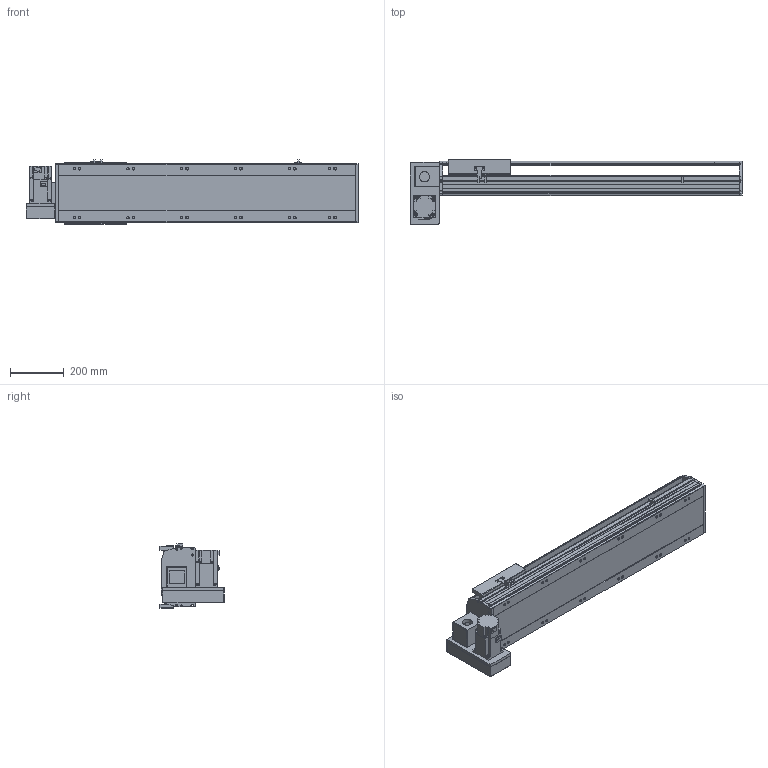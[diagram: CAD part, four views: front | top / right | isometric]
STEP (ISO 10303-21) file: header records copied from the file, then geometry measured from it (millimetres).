
FILE_DESCRIPTION(/* description */ ('STEP AP214'),/* implementation_level */ '2;1');
FILE_NAME(/* name */ 'PBS220-P40-S750-LD-T75-C1-N(0)',/* time_stamp */ '2022-06-27T09:43:18+02:00',/* author */ ('License CC BY-ND 4.0'),/* organization */ ('CADENAS'),/* preprocessor_version */ 'ST-DEVELOPER v18.102',/* originating_system */ 'PARTsolutions',/* authorisation */ ' ');
FILE_SCHEMA (('AUTOMOTIVE_DESIGN {1 0 10303 214 3 1 1}'));
Length unit declared in the file: millimetre
Products named in the file (7): PBS220-P40-S750-LD-T75-C1-N(0); PBS220_sensor; PBS220_plant; PBS220_sliser; T75-p1; PBS220T-LD_motors; PBS220-S750()_body
Assembly tree (8 placements, depth 2):
  PBS220-P40-S750-LD-T75-C1-N(0)
    PBS220_sensor  x3
    PBS220_plant
    PBS220_sliser
    T75-p1
    PBS220T-LD_motors
    PBS220-S750()_body
Bounding box: 1234 x 239 x 238.5 mm (x, y, z)
Volume: 18092271.2 mm3; surface area: 1813232.5 mm2
Topology: 8 solids, 8 shells, 890 faces, 2340 edges, 1522 vertices
Faces by surface type: plane 590, cylinder 264, cone 36
Full cylindrical faces by diameter (mm): 2.013 x4, 4.5 x14, 4.917 x4, 6 x7, 6.647 x8, 8 x10, 8.376 x12, 8.5 x12, 10 x6, 14 x12, 38 x2, 40 x1, 70 x1
Entity records: 25004 total; most frequent: CARTESIAN_POINT 4360, DIRECTION 4347, ORIENTED_EDGE 4034, EDGE_CURVE 2017, AXIS2_PLACEMENT_3D 1503, VERTEX_POINT 1384, LINE 1341, VECTOR 1341
